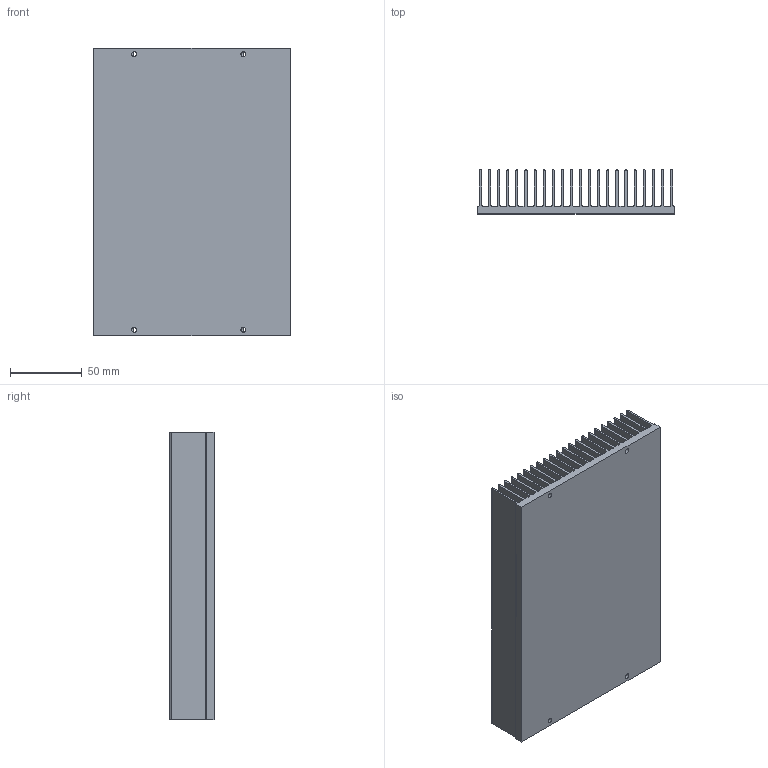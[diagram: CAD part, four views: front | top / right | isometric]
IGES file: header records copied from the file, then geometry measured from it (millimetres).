
Start section: SolidWorks IGES file using analytic representation for surfaces
Global section: file name: E:\ALL Users\Chris Roy\Projects\Xenus Plus\13\13-00140-000.IGS; native system: SolidWorks 2008; preprocessor: SolidWorks 2008; author: croy; date: 090212.155306; units: inch
Bounding box: 137.16 x 30.73 x 200.66 mm (x, y, z)
Surface area: 279513.9 mm2 (no closed solid volume)
Topology: 0 solids, 0 shells, 154 faces, 1844 edges, 1844 vertices
Faces by surface type: revolution 82, bspline 72
